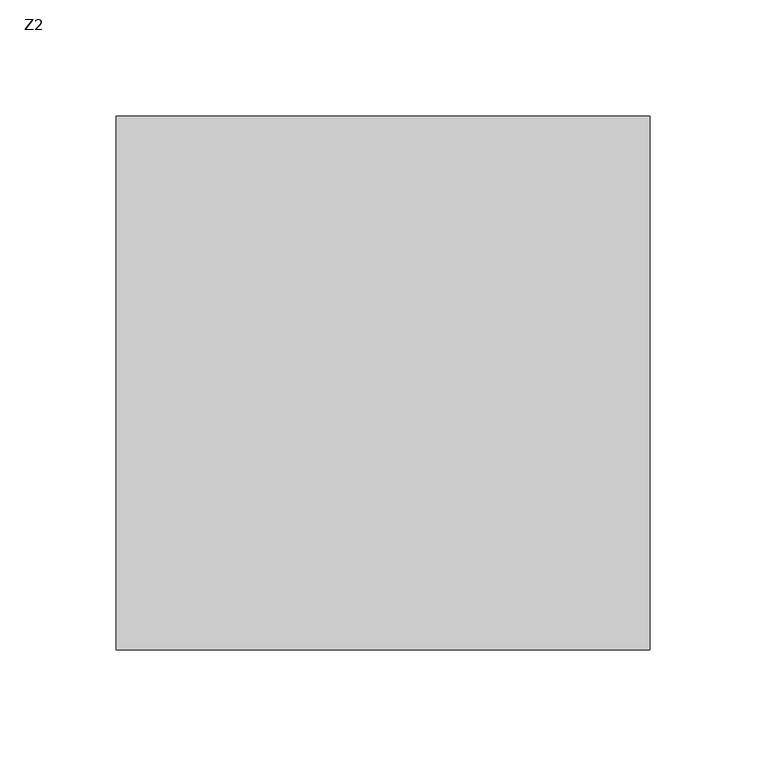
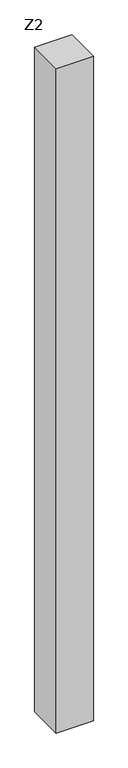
"""IFC4 building model written with IfcOpenShell, lengths in millimetres: column geometry, 混凝土 - 矩形 - 柱 : Z2."""

from ifc_helpers import new_model, si_unit, frame, origin, place, context, project, spatial, polyline, outline, extrude, source, transform, mapped, element, save


def z2_4422c3f5(model_context):
    return source(origin(), model_context, "Body", "SweptSolid", [
        extrude(outline(polyline([(115.0, -115.0), (-115.0, -115.0), (-115.0, 115.0), (115.0, 115.0), (115.0, -115.0)])), frame((0.0, 0.0, -450.0), z_axis=(0.0, 0.0, 1.0), x_axis=(1.0, 0.0, 0.0)), (0.0, 0.0, 1.0), 4350.0),
    ])


if __name__ == "__main__":
    model = new_model("IFC4")
    model_context = context("Model", 3, world=origin())
    ifc_project = project(units=[si_unit("LENGTHUNIT", "METRE", prefix="MILLI")], contexts=[model_context])
    site = spatial("IfcSite", under=ifc_project)
    building = spatial("IfcBuilding", under=site)
    placement = place(None, origin())
    z2_shape = z2_4422c3f5(model_context)
    element("IfcColumn", 1, ObjectType="混凝土 - 矩形 - 柱 : Z2", at=placement, inside=building, context=model_context, shape_type="MappedRepresentation", body=[
        mapped(z2_shape, transform((0.0, 0.0, 0.0), x_axis=(1.0, 0.0, 0.0), y_axis=(0.0, 1.0, 0.0), z_axis=(0.0, 0.0, 1.0))),
    ])
    save(model, "model.ifc")
